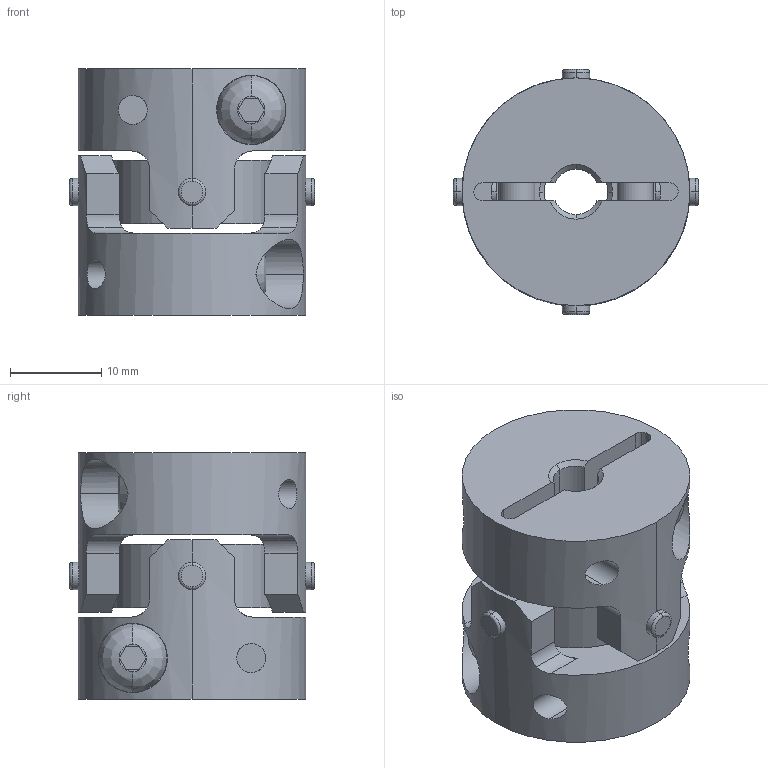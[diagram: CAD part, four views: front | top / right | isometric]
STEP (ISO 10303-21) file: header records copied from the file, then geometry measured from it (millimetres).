
FILE_DESCRIPTION((''),'2;1');
FILE_NAME('UA-25C-5×7.stp','2013-05-16T09:14:46',(''),(''),'AutoCAD STEP 2000i','AutoCAD 2000i',', , ');
FILE_SCHEMA(('CONFIG_CONTROL_DESIGN'));
Length unit declared in the file: millimetre
Products named in the file (6): UA-25C-5×5; 忣兜1; UA-2502-D05-1; BTN-M4; UA-2502-D05; UA25-SEN
Assembly tree (6 placements, depth 3):
  UA-25C-5×5
    忣兜1
    UA-2502-D05-1
      BTN-M4
    UA-2502-D05
      BTN-M4
    UA25-SEN
Bounding box: 26.89 x 26.89 x 27 mm (x, y, z)
Volume: 9354.7 mm3; surface area: 6494 mm2
Topology: 1 solids, 1 shells, 206 faces, 554 edges, 364 vertices
Faces by surface type: cylinder 96, plane 78, cone 16, bspline 8, torus 8
Entity records: 8291 total; most frequent: CARTESIAN_POINT 2975, ORIENTED_EDGE 1108, DIRECTION 1064, EDGE_CURVE 554, AXIS2_PLACEMENT_3D 409, VERTEX_POINT 364, VECTOR 246, LINE 246
